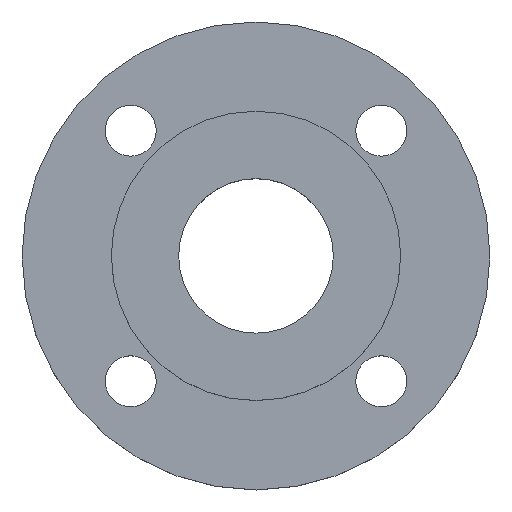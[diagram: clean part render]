
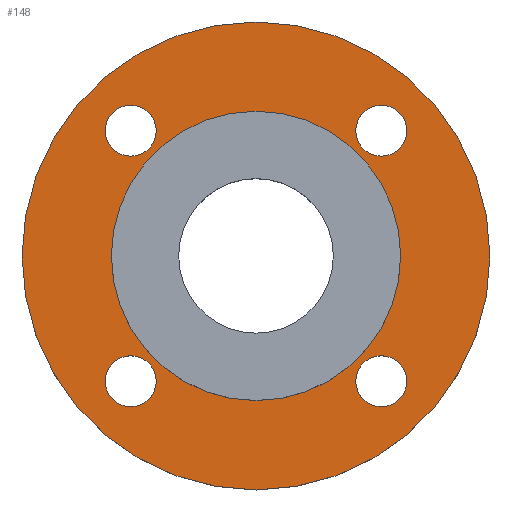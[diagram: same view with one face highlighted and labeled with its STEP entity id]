
A CAD part, top view. The second image highlights one B-rep face of the part: STEP entity #148.
In plain terms, the highlighted planar face has unit normal (0, 0, 1).
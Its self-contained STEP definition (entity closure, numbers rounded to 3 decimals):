
#11 = DIRECTION ( 'NONE',  ( -1., 0., 0. ) ) ;
#13 = DIRECTION ( 'NONE',  ( 0., 0., -1. ) ) ;
#14 = CARTESIAN_POINT ( 'NONE',  ( 44.194, 44.194, 0. ) ) ;
#15 = DIRECTION ( 'NONE',  ( -1., 0., 0. ) ) ;
#17 = DIRECTION ( 'NONE',  ( 0., 0., -1. ) ) ;
#23 = CARTESIAN_POINT ( 'NONE',  ( 44.194, 44.194, 0. ) ) ;
#36 = EDGE_CURVE ( 'NONE', #509, #598, #501, .T. ) ;
#60 = EDGE_CURVE ( 'NONE', #598, #509, #424, .T. ) ;
#68 = EDGE_LOOP ( 'NONE', ( #384, #324 ) ) ;
#83 = VERTEX_POINT ( 'NONE', #329 ) ;
#94 = CARTESIAN_POINT ( 'NONE',  ( 53.194, -44.194, 0. ) ) ;
#103 = ORIENTED_EDGE ( 'NONE', *, *, #620, .T. ) ;
#106 = EDGE_CURVE ( 'NONE', #589, #445, #334, .T. ) ;
#119 = EDGE_LOOP ( 'NONE', ( #356, #404 ) ) ;
#148 = ADVANCED_FACE ( 'NONE', ( #641, #650, #652, #901, #863, #884 ), #860, .T. ) ;
#154 = EDGE_LOOP ( 'NONE', ( #103, #416 ) ) ;
#162 = EDGE_LOOP ( 'NONE', ( #414, #331 ) ) ;
#165 = AXIS2_PLACEMENT_3D ( 'NONE', #769, #767, #766 ) ;
#167 = CIRCLE ( 'NONE', #255, 9. ) ;
#216 = AXIS2_PLACEMENT_3D ( 'NONE', #290, #302, #303 ) ;
#218 = EDGE_LOOP ( 'NONE', ( #319, #406 ) ) ;
#222 = DIRECTION ( 'NONE',  ( -1., 0., 0. ) ) ;
#223 = DIRECTION ( 'NONE',  ( 0., 0., -1. ) ) ;
#225 = CARTESIAN_POINT ( 'NONE',  ( -44.194, -44.194, 0. ) ) ;
#238 = AXIS2_PLACEMENT_3D ( 'NONE', #793, #792, #791 ) ;
#247 = CIRCLE ( 'NONE', #216, 9. ) ;
#254 = EDGE_CURVE ( 'NONE', #399, #546, #339, .T. ) ;
#255 = AXIS2_PLACEMENT_3D ( 'NONE', #826, #824, #823 ) ;
#267 = CARTESIAN_POINT ( 'NONE',  ( -44.194, 44.194, 0. ) ) ;
#268 = DIRECTION ( 'NONE',  ( 0., 0., -1. ) ) ;
#271 = DIRECTION ( 'NONE',  ( -1., 0., 0. ) ) ;
#279 = AXIS2_PLACEMENT_3D ( 'NONE', #307, #358, #365 ) ;
#286 = AXIS2_PLACEMENT_3D ( 'NONE', #267, #268, #271 ) ;
#290 = CARTESIAN_POINT ( 'NONE',  ( -44.194, -44.194, 0. ) ) ;
#291 = EDGE_CURVE ( 'NONE', #601, #431, #894, .T. ) ;
#298 = AXIS2_PLACEMENT_3D ( 'NONE', #700, #699, #698 ) ;
#302 = DIRECTION ( 'NONE',  ( 0., 0., -1. ) ) ;
#303 = DIRECTION ( 'NONE',  ( -1., 0., 0. ) ) ;
#307 = CARTESIAN_POINT ( 'NONE',  ( 0., 0., 0. ) ) ;
#319 = ORIENTED_EDGE ( 'NONE', *, *, #36, .T. ) ;
#324 = ORIENTED_EDGE ( 'NONE', *, *, #428, .T. ) ;
#329 = CARTESIAN_POINT ( 'NONE',  ( -35.194, 44.194, 0. ) ) ;
#331 = ORIENTED_EDGE ( 'NONE', *, *, #882, .T. ) ;
#334 = CIRCLE ( 'NONE', #279, 82.5 ) ;
#339 = CIRCLE ( 'NONE', #605, 9. ) ;
#345 = ORIENTED_EDGE ( 'NONE', *, *, #254, .T. ) ;
#351 = CIRCLE ( 'NONE', #298, 43.5 ) ;
#356 = ORIENTED_EDGE ( 'NONE', *, *, #291, .T. ) ;
#358 = DIRECTION ( 'NONE',  ( 0., 0., 1. ) ) ;
#365 = DIRECTION ( 'NONE',  ( 1., 0., 0. ) ) ;
#369 = CARTESIAN_POINT ( 'NONE',  ( 0., 0., 0. ) ) ;
#370 = DIRECTION ( 'NONE',  ( 0., 0., 1. ) ) ;
#371 = DIRECTION ( 'NONE',  ( 1., 0., 0. ) ) ;
#372 = CIRCLE ( 'NONE', #286, 9. ) ;
#384 = ORIENTED_EDGE ( 'NONE', *, *, #847, .T. ) ;
#394 = ORIENTED_EDGE ( 'NONE', *, *, #497, .T. ) ;
#399 = VERTEX_POINT ( 'NONE', #94 ) ;
#404 = ORIENTED_EDGE ( 'NONE', *, *, #855, .T. ) ;
#406 = ORIENTED_EDGE ( 'NONE', *, *, #60, .T. ) ;
#414 = ORIENTED_EDGE ( 'NONE', *, *, #106, .T. ) ;
#416 = ORIENTED_EDGE ( 'NONE', *, *, #525, .T. ) ;
#420 = AXIS2_PLACEMENT_3D ( 'NONE', #14, #13, #11 ) ;
#424 = CIRCLE ( 'NONE', #420, 9. ) ;
#425 = AXIS2_PLACEMENT_3D ( 'NONE', #23, #17, #15 ) ;
#428 = EDGE_CURVE ( 'NONE', #582, #83, #167, .T. ) ;
#431 = VERTEX_POINT ( 'NONE', #821 ) ;
#445 = VERTEX_POINT ( 'NONE', #820 ) ;
#497 = EDGE_CURVE ( 'NONE', #546, #399, #892, .T. ) ;
#501 = CIRCLE ( 'NONE', #425, 9. ) ;
#509 = VERTEX_POINT ( 'NONE', #784 ) ;
#510 = AXIS2_PLACEMENT_3D ( 'NONE', #369, #370, #371 ) ;
#525 = EDGE_CURVE ( 'NONE', #591, #573, #888, .T. ) ;
#546 = VERTEX_POINT ( 'NONE', #761 ) ;
#553 = EDGE_LOOP ( 'NONE', ( #345, #394 ) ) ;
#573 = VERTEX_POINT ( 'NONE', #736 ) ;
#582 = VERTEX_POINT ( 'NONE', #726 ) ;
#589 = VERTEX_POINT ( 'NONE', #721 ) ;
#591 = VERTEX_POINT ( 'NONE', #719 ) ;
#598 = VERTEX_POINT ( 'NONE', #715 ) ;
#601 = VERTEX_POINT ( 'NONE', #712 ) ;
#605 = AXIS2_PLACEMENT_3D ( 'NONE', #844, #843, #856 ) ;
#620 = EDGE_CURVE ( 'NONE', #573, #591, #351, .T. ) ;
#641 = FACE_BOUND ( 'NONE', #553, .T. ) ;
#646 = AXIS2_PLACEMENT_3D ( 'NONE', #861, #885, #865 ) ;
#650 = FACE_BOUND ( 'NONE', #119, .T. ) ;
#652 = FACE_BOUND ( 'NONE', #68, .T. ) ;
#698 = DIRECTION ( 'NONE',  ( -1., 0., 0. ) ) ;
#699 = DIRECTION ( 'NONE',  ( 0., 0., -1. ) ) ;
#700 = CARTESIAN_POINT ( 'NONE',  ( 0., 0., 0. ) ) ;
#712 = CARTESIAN_POINT ( 'NONE',  ( -35.194, -44.194, 0. ) ) ;
#715 = CARTESIAN_POINT ( 'NONE',  ( 35.194, 44.194, 0. ) ) ;
#719 = CARTESIAN_POINT ( 'NONE',  ( -43.5, 0., 0. ) ) ;
#721 = CARTESIAN_POINT ( 'NONE',  ( 82.5, 0., 0. ) ) ;
#726 = CARTESIAN_POINT ( 'NONE',  ( -53.194, 44.194, 0. ) ) ;
#736 = CARTESIAN_POINT ( 'NONE',  ( 43.5, 0., 0. ) ) ;
#761 = CARTESIAN_POINT ( 'NONE',  ( 35.194, -44.194, 0. ) ) ;
#766 = DIRECTION ( 'NONE',  ( -1., 0., 0. ) ) ;
#767 = DIRECTION ( 'NONE',  ( 0., 0., -1. ) ) ;
#769 = CARTESIAN_POINT ( 'NONE',  ( 0., 0., 0. ) ) ;
#780 = CIRCLE ( 'NONE', #510, 82.5 ) ;
#784 = CARTESIAN_POINT ( 'NONE',  ( 53.194, 44.194, 0. ) ) ;
#791 = DIRECTION ( 'NONE',  ( -1., 0., 0. ) ) ;
#792 = DIRECTION ( 'NONE',  ( 0., 0., -1. ) ) ;
#793 = CARTESIAN_POINT ( 'NONE',  ( 44.194, -44.194, 0. ) ) ;
#820 = CARTESIAN_POINT ( 'NONE',  ( -82.5, 0., 0. ) ) ;
#821 = CARTESIAN_POINT ( 'NONE',  ( -53.194, -44.194, 0. ) ) ;
#822 = AXIS2_PLACEMENT_3D ( 'NONE', #225, #223, #222 ) ;
#823 = DIRECTION ( 'NONE',  ( -1., 0., 0. ) ) ;
#824 = DIRECTION ( 'NONE',  ( 0., 0., -1. ) ) ;
#826 = CARTESIAN_POINT ( 'NONE',  ( -44.194, 44.194, 0. ) ) ;
#843 = DIRECTION ( 'NONE',  ( 0., 0., -1. ) ) ;
#844 = CARTESIAN_POINT ( 'NONE',  ( 44.194, -44.194, 0. ) ) ;
#847 = EDGE_CURVE ( 'NONE', #83, #582, #372, .T. ) ;
#855 = EDGE_CURVE ( 'NONE', #431, #601, #247, .T. ) ;
#856 = DIRECTION ( 'NONE',  ( -1., 0., 0. ) ) ;
#860 = PLANE ( 'NONE',  #646 ) ;
#861 = CARTESIAN_POINT ( 'NONE',  ( 0., 0., 0. ) ) ;
#863 = FACE_BOUND ( 'NONE', #154, .T. ) ;
#865 = DIRECTION ( 'NONE',  ( 1., 0., 0. ) ) ;
#882 = EDGE_CURVE ( 'NONE', #445, #589, #780, .T. ) ;
#884 = FACE_OUTER_BOUND ( 'NONE', #162, .T. ) ;
#885 = DIRECTION ( 'NONE',  ( 0., 0., 1. ) ) ;
#888 = CIRCLE ( 'NONE', #165, 43.5 ) ;
#892 = CIRCLE ( 'NONE', #238, 9. ) ;
#894 = CIRCLE ( 'NONE', #822, 9. ) ;
#901 = FACE_BOUND ( 'NONE', #218, .T. ) ;
